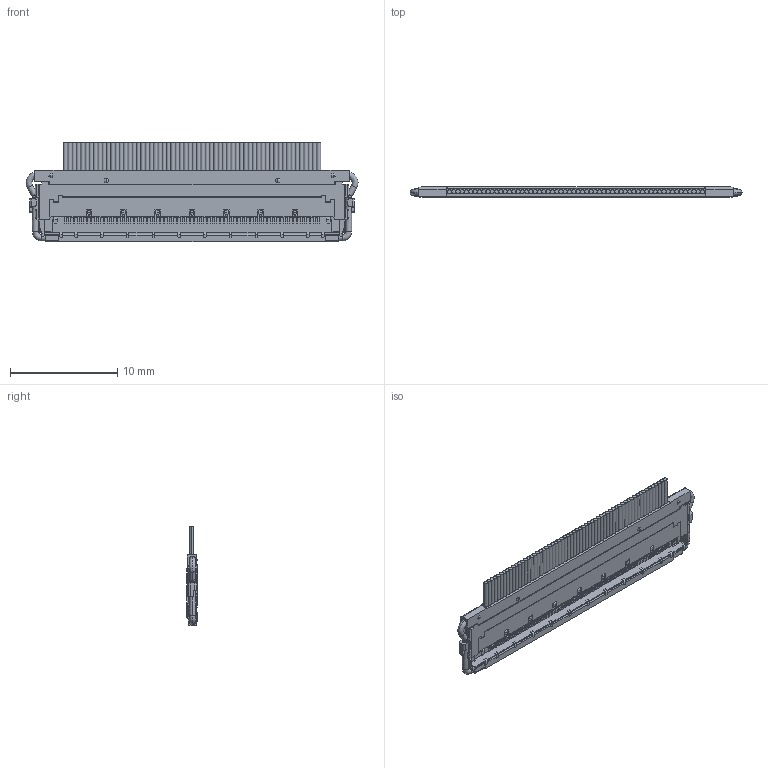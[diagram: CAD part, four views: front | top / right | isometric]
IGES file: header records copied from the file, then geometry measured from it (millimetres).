
Start section: SolidWorks IGES file using analytic representation for surfaces
Global section: file name: C:\3dworks\‘C‰i\CAII PLUS 60P STEP 161111\MATING\MATING IGES.IGS; native system: SolidWorks 2014; preprocessor: SolidWorks 2014; author: ieng2-005; date: 170519.182526; units: millimetre
Bounding box: 30.95 x 0.95 x 9.3 mm (x, y, z)
Surface area: 790.5 mm2 (no closed solid volume)
Topology: 0 solids, 0 shells, 2052 faces, 15076 edges, 15076 vertices
Faces by surface type: bspline 1394, revolution 658
